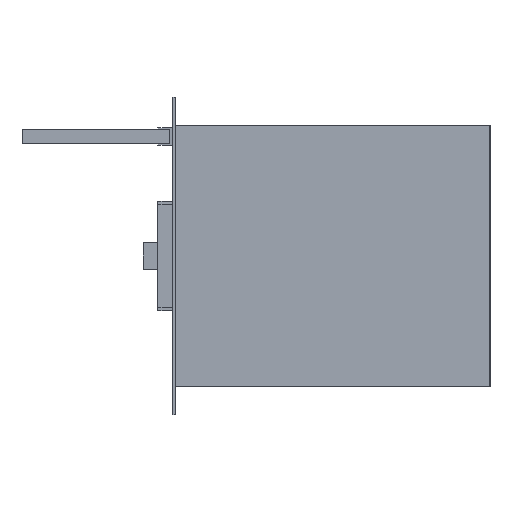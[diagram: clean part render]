
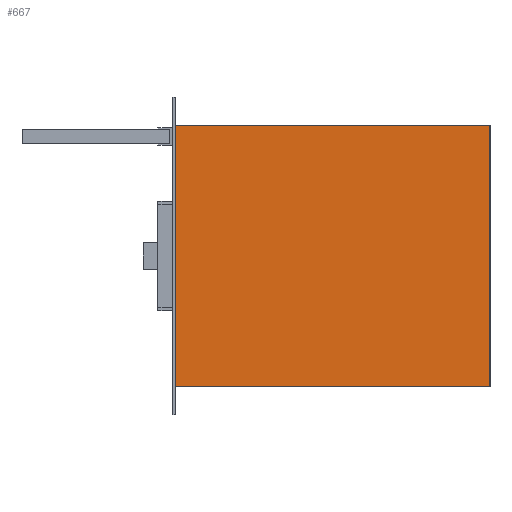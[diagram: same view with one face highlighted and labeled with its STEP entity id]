
A CAD part, left-side view. The second image highlights one B-rep face of the part: STEP entity #667.
In plain terms, the highlighted planar face has unit normal (-1, 0, 0).
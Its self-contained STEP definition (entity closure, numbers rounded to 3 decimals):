
#2 = EDGE_CURVE ( 'NONE', #1138, #944, #738, .T. ) ;
#31 = DIRECTION ( 'NONE',  ( 0., 1., 0. ) ) ;
#112 = CARTESIAN_POINT ( 'NONE',  ( -443., 0., 88.5 ) ) ;
#236 = LINE ( 'NONE', #906, #769 ) ;
#238 = CARTESIAN_POINT ( 'NONE',  ( -443., 0., -88.5 ) ) ;
#242 = ORIENTED_EDGE ( 'NONE', *, *, #517, .T. ) ;
#361 = VECTOR ( 'NONE', #1460, 1000. ) ;
#517 = EDGE_CURVE ( 'NONE', #1436, #1138, #1935, .T. ) ;
#584 = CARTESIAN_POINT ( 'NONE',  ( -443., -213., 88.5 ) ) ;
#603 = AXIS2_PLACEMENT_3D ( 'NONE', #1276, #1110, #1789 ) ;
#667 = ADVANCED_FACE ( 'NONE', ( #742 ), #962, .F. ) ;
#684 = ORIENTED_EDGE ( 'NONE', *, *, #2, .T. ) ;
#691 = CARTESIAN_POINT ( 'NONE',  ( -443., -213., 88.5 ) ) ;
#728 = VERTEX_POINT ( 'NONE', #1175 ) ;
#738 = LINE ( 'NONE', #238, #361 ) ;
#739 = LINE ( 'NONE', #1775, #784 ) ;
#742 = FACE_OUTER_BOUND ( 'NONE', #1291, .T. ) ;
#769 = VECTOR ( 'NONE', #1940, 1000. ) ;
#784 = VECTOR ( 'NONE', #791, 1000. ) ;
#791 = DIRECTION ( 'NONE',  ( 0., -1., 0. ) ) ;
#906 = CARTESIAN_POINT ( 'NONE',  ( -443., -213., -88.5 ) ) ;
#932 = EDGE_CURVE ( 'NONE', #944, #728, #739, .T. ) ;
#944 = VERTEX_POINT ( 'NONE', #2117 ) ;
#962 = PLANE ( 'NONE',  #603 ) ;
#1110 = DIRECTION ( 'NONE',  ( 1., 0., 0. ) ) ;
#1134 = ORIENTED_EDGE ( 'NONE', *, *, #932, .T. ) ;
#1138 = VERTEX_POINT ( 'NONE', #112 ) ;
#1144 = VECTOR ( 'NONE', #31, 1000. ) ;
#1175 = CARTESIAN_POINT ( 'NONE',  ( -443., -213., -88.5 ) ) ;
#1276 = CARTESIAN_POINT ( 'NONE',  ( -443., 2., 107.5 ) ) ;
#1291 = EDGE_LOOP ( 'NONE', ( #1134, #1828, #242, #684 ) ) ;
#1435 = EDGE_CURVE ( 'NONE', #728, #1436, #236, .T. ) ;
#1436 = VERTEX_POINT ( 'NONE', #584 ) ;
#1460 = DIRECTION ( 'NONE',  ( 0., 0., -1. ) ) ;
#1775 = CARTESIAN_POINT ( 'NONE',  ( -443., -213., -88.5 ) ) ;
#1789 = DIRECTION ( 'NONE',  ( 0., 0., -1. ) ) ;
#1828 = ORIENTED_EDGE ( 'NONE', *, *, #1435, .T. ) ;
#1935 = LINE ( 'NONE', #691, #1144 ) ;
#1940 = DIRECTION ( 'NONE',  ( 0., 0., 1. ) ) ;
#2117 = CARTESIAN_POINT ( 'NONE',  ( -443., 0., -88.5 ) ) ;
